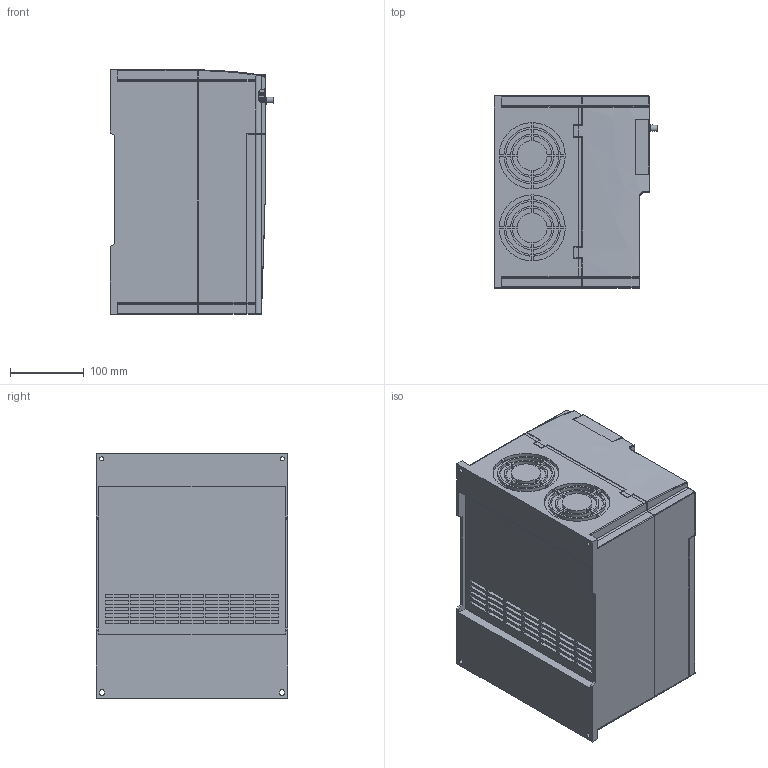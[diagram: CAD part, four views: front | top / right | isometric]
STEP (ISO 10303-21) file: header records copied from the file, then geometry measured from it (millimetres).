
FILE_DESCRIPTION(('STEP AP214'), '1');
FILE_NAME('Ïðåîáðàçîâàòåëü ÷àñòîòû _ MCI-G18,5P22-4', '', ('UNSPECIFIED'), ('UNSPECIFIED'), 'C3D Converter', 'C3D Toolkit', '');
FILE_SCHEMA(('AUTOMOTIVE_DESIGN { 1 0 10303 214 3 1 1}'));
Length unit declared in the file: millimetre
Products named in the file (3): MCI-G18,5/P22-4; MCI-KP-S
Assembly tree (2 placements, depth 2):
  MCI-G18,5/P22-4
    MCI-G18,5/P22-4
    MCI-KP-S
Bounding box: 221.85 x 259.9 x 332.2 mm (x, y, z)
Volume: 16563941.9 mm3; surface area: 500842.5 mm2
Topology: 2 solids, 2 shells, 1275 faces, 3235 edges, 2126 vertices
Faces by surface type: plane 1028, cylinder 186, cone 22, sphere 14, bspline 10, torus 10, extrusion 5
Full cylindrical faces by diameter (mm): 4 x4, 5.5 x2
Entity records: 44979 total; most frequent: CARTESIAN_POINT 11112, ORIENTED_EDGE 6408, DIRECTION 6052, EDGE_CURVE 3204, VECTOR 2704, LINE 2699, VERTEX_POINT 2126, AXIS2_PLACEMENT_3D 1674
